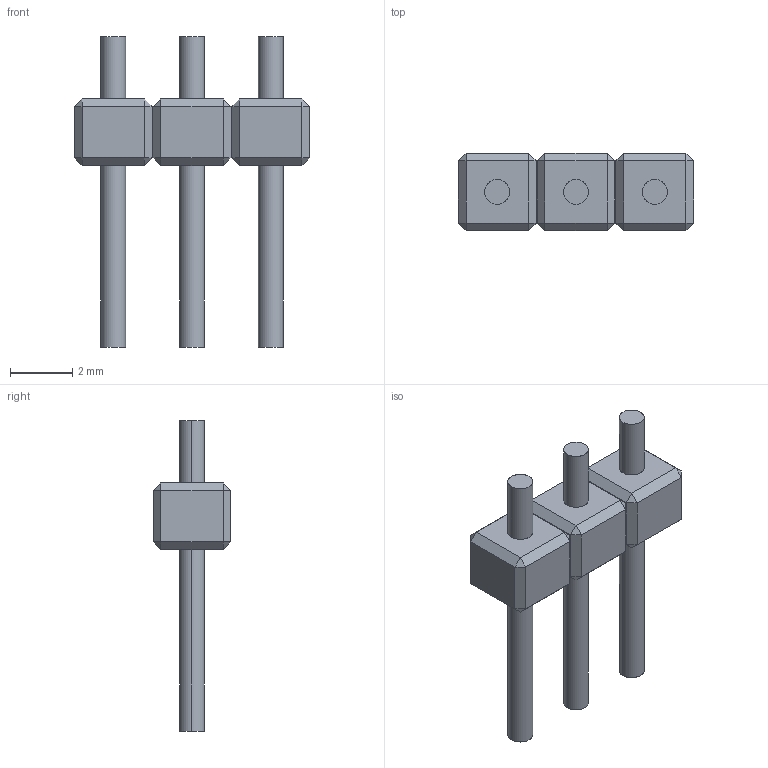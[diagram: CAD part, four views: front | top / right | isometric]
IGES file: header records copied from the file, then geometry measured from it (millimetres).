
Start section: SolidWorks IGES file using analytic representation for surfaces
Global section: file name: C:\Users\AndreBernot\Downloads\K-RACER-L_3D_SW\K-RACER-L_3D_SW\IGS\ASB 3PICOTS.IGS; native system: SolidWorks 2015; preprocessor: SolidWorks 2015; author: AndreBernot; date: 170922.150757; units: millimetre
Bounding box: 7.59 x 2.51 x 10 mm (x, y, z)
Surface area: 148.6 mm2 (no closed solid volume)
Topology: 0 solids, 0 shells, 96 faces, 528 edges, 528 vertices
Faces by surface type: bspline 84, revolution 12
